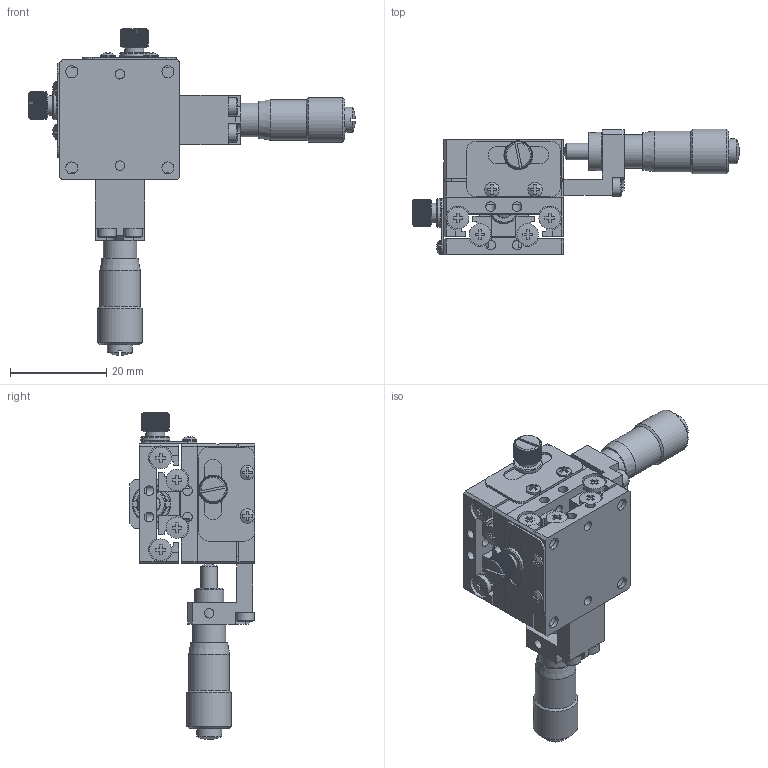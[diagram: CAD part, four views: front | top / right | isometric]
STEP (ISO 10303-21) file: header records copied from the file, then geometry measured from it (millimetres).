
FILE_DESCRIPTION (( 'STEP AP214' ), '1' );
FILE_NAME ('PHS-252C-1.STEP', '2017-12-04T06:55:08', ( '' ), ( '' ), 'SwSTEP 2.0', 'SolidWorks 2014', '' );
FILE_SCHEMA (( 'AUTOMOTIVE_DESIGN' ));
Length unit declared in the file: millimetre
Products named in the file (55): PM2-3-D3; PHS-252C-1; SHT1-6_5-C1-S01; CM20-2; DIANPIAN; SHT1-6_5-02-S01; PHS-252-06(A); M3-D6-5; PHS-252-04(B); M2-14_1 --1-1; PHS-252-02(B)-C; PHS-252-01(B)-C; NUT-6_5; PHS-251C
Assembly tree (28 placements, depth 3):
  PM2-3-D3
  PHS-252C-1
    PHS-251C  x2
      PHS-252-01(B)-C
      PHS-252-02(B)-C
      M3-D6-5
      DIANPIAN
      CM20-2
      PHS-252-06(A)
      PM2-3-D3
    PHS-252-04(B)  x2
    SHT1-6_5-02-S01  x2
    SHT1-6_5-C1-S01  x2
    M2-14_1 --1-1  x4
    NUT-6_5
  SHT1-6_5-C1-S01
  CM20-2
  PHS-252-06(A)
Bounding box: 68 x 26.15 x 68 mm (x, y, z)
Volume: 14981.4 mm3; surface area: 21184.5 mm2
Topology: 43 solids, 43 shells, 1983 faces, 5517 edges, 3693 vertices
Faces by surface type: plane 1517, cylinder 312, cone 92, bspline 56, sphere 6
Full cylindrical faces by diameter (mm): 1.5 x8, 1.713 x2, 1.998 x8, 2 x118, 2.1 x8, 2.2 x2, 2.5 x10, 3 x8, 3.3 x2, 3.5 x4, 3.8 x4, 4 x4, 4.3 x8, 4.5 x20, 5 x2, 5.2 x2, 5.8 x2, 6 x7, 6.4 x2, 7 x2, 7.2 x2, 8 x1, 8.5 x2, 9.3 x2
Entity records: 43393 total; most frequent: CARTESIAN_POINT 13923, ORIENTED_EDGE 4374, DIRECTION 3166, EDGE_CURVE 2187, VERTEX_POINT 1546, AXIS2_PLACEMENT_3D 1158, EDGE_LOOP 1093, B_SPLINE_CURVE_WITH_KNOTS 959
